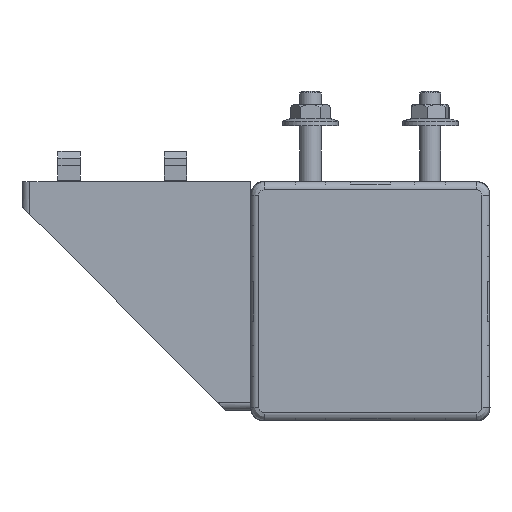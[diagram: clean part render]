
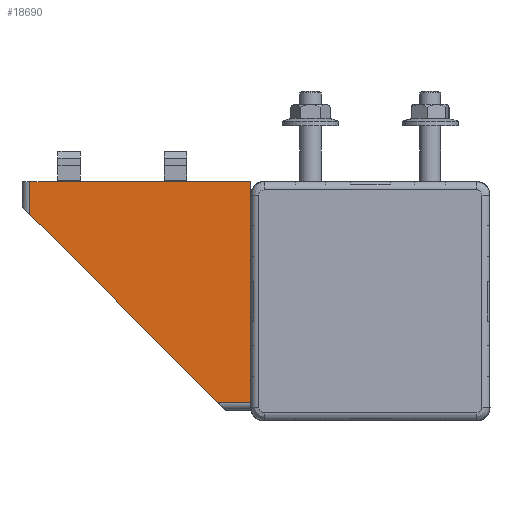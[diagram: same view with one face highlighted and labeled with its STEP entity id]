
A CAD part, left-side view. The second image highlights one B-rep face of the part: STEP entity #18690.
In plain terms, the highlighted planar face has unit normal (-1, 0, 0).
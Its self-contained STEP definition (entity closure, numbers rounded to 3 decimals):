
#330 = DIRECTION ( 'NONE',  ( 0., 0., -1. ) ) ;
#1000 = VERTEX_POINT ( 'NONE', #15898 ) ;
#1747 = ORIENTED_EDGE ( 'NONE', *, *, #6867, .T. ) ;
#2263 = VECTOR ( 'NONE', #18949, 1000. ) ;
#2357 = ORIENTED_EDGE ( 'NONE', *, *, #25773, .T. ) ;
#3540 = VECTOR ( 'NONE', #330, 1000. ) ;
#4607 = CARTESIAN_POINT ( 'NONE',  ( -832.75, 45., 45. ) ) ;
#4830 = DIRECTION ( 'NONE',  ( 0., -1., 0. ) ) ;
#5073 = ORIENTED_EDGE ( 'NONE', *, *, #21710, .F. ) ;
#6738 = VECTOR ( 'NONE', #14521, 1000. ) ;
#6867 = EDGE_CURVE ( 'NONE', #28001, #1000, #32305, .T. ) ;
#8194 = CARTESIAN_POINT ( 'NONE',  ( -832.75, 45., 45. ) ) ;
#8625 = VERTEX_POINT ( 'NONE', #11445 ) ;
#8967 = LINE ( 'NONE', #13985, #3540 ) ;
#10380 = DIRECTION ( 'NONE',  ( -1., 0., 0. ) ) ;
#11049 = CARTESIAN_POINT ( 'NONE',  ( -832.75, 128., 32.5 ) ) ;
#11445 = CARTESIAN_POINT ( 'NONE',  ( -832.75, 128., 32.5 ) ) ;
#13985 = CARTESIAN_POINT ( 'NONE',  ( -832.75, 128., 45. ) ) ;
#14521 = DIRECTION ( 'NONE',  ( 0., 0., -1. ) ) ;
#15096 = VERTEX_POINT ( 'NONE', #23442 ) ;
#15393 = VECTOR ( 'NONE', #4830, 1000. ) ;
#15898 = CARTESIAN_POINT ( 'NONE',  ( -832.75, 45., -38. ) ) ;
#16099 = PLANE ( 'NONE',  #17761 ) ;
#17761 = AXIS2_PLACEMENT_3D ( 'NONE', #8194, #10380, #21326 ) ;
#18499 = CARTESIAN_POINT ( 'NONE',  ( -832.75, 45., -38. ) ) ;
#18608 = DIRECTION ( 'NONE',  ( 0., -1., 0. ) ) ;
#18690 = ADVANCED_FACE ( 'NONE', ( #21850 ), #16099, .T. ) ;
#18949 = DIRECTION ( 'NONE',  ( 0., -0.707, -0.707 ) ) ;
#19305 = CARTESIAN_POINT ( 'NONE',  ( -832.75, 128., 45. ) ) ;
#20992 = VECTOR ( 'NONE', #18608, 1000. ) ;
#21326 = DIRECTION ( 'NONE',  ( 0., 0., -1. ) ) ;
#21710 = EDGE_CURVE ( 'NONE', #30071, #15096, #32070, .T. ) ;
#21850 = FACE_OUTER_BOUND ( 'NONE', #29378, .T. ) ;
#22386 = ORIENTED_EDGE ( 'NONE', *, *, #32405, .T. ) ;
#23163 = LINE ( 'NONE', #31240, #6738 ) ;
#23442 = CARTESIAN_POINT ( 'NONE',  ( -832.75, 45., 45. ) ) ;
#23452 = LINE ( 'NONE', #11049, #2263 ) ;
#25405 = ORIENTED_EDGE ( 'NONE', *, *, #28225, .F. ) ;
#25773 = EDGE_CURVE ( 'NONE', #8625, #28001, #23452, .T. ) ;
#28001 = VERTEX_POINT ( 'NONE', #29644 ) ;
#28225 = EDGE_CURVE ( 'NONE', #15096, #1000, #23163, .T. ) ;
#29378 = EDGE_LOOP ( 'NONE', ( #5073, #22386, #2357, #1747, #25405 ) ) ;
#29644 = CARTESIAN_POINT ( 'NONE',  ( -832.75, 57.5, -38. ) ) ;
#30071 = VERTEX_POINT ( 'NONE', #19305 ) ;
#31240 = CARTESIAN_POINT ( 'NONE',  ( -832.75, 45., -41. ) ) ;
#32070 = LINE ( 'NONE', #4607, #20992 ) ;
#32305 = LINE ( 'NONE', #18499, #15393 ) ;
#32405 = EDGE_CURVE ( 'NONE', #30071, #8625, #8967, .T. ) ;
